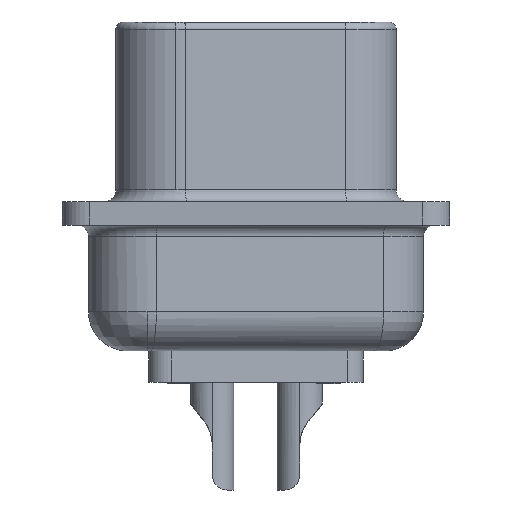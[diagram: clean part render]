
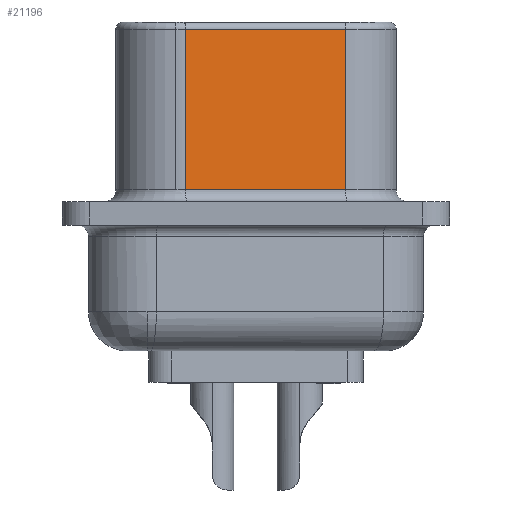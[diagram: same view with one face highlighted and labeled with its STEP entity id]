
A CAD part, left-side view. The second image highlights one B-rep face of the part: STEP entity #21196.
In plain terms, the highlighted planar face has unit normal (-0.987, -0.159, 0).
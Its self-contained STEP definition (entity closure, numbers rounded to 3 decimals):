
#3079 = VERTEX_POINT('',#3080);
#3080 = CARTESIAN_POINT('',(6.571,8.592,5.588));
#3095 = CYLINDRICAL_SURFACE('',#3096,1.956);
#3096 = AXIS2_PLACEMENT_3D('',#3097,#3098,#3099);
#3097 = CARTESIAN_POINT('',(8.502,8.903,5.842));
#3098 = DIRECTION('',(0.,0.,-1.));
#3099 = DIRECTION('',(-1.,0.,0.));
#3122 = CYLINDRICAL_SURFACE('',#3123,0.254);
#3123 = AXIS2_PLACEMENT_3D('',#3124,#3125,#3126);
#3124 = CARTESIAN_POINT('',(7.66,3.425,5.588));
#3125 = DIRECTION('',(0.159,-0.987,0.));
#3126 = DIRECTION('',(0.987,0.159,0.));
#3283 = VERTEX_POINT('',#3284);
#3284 = CARTESIAN_POINT('',(6.571,8.592,0.381));
#3311 = EDGE_CURVE('',#3079,#3283,#3312,.T.);
#3312 = SURFACE_CURVE('',#3313,(#3317,#3324),.PCURVE_S1.);
#3313 = LINE('',#3314,#3315);
#3314 = CARTESIAN_POINT('',(6.571,8.592,5.842));
#3315 = VECTOR('',#3316,1.);
#3316 = DIRECTION('',(0.,0.,-1.));
#3317 = PCURVE('',#3095,#3318);
#3318 = DEFINITIONAL_REPRESENTATION('',(#3319),#3323);
#3319 = LINE('',#3320,#3321);
#3320 = CARTESIAN_POINT('',(6.124,0.));
#3321 = VECTOR('',#3322,1.);
#3322 = DIRECTION('',(0.,1.));
#3323 = ( GEOMETRIC_REPRESENTATION_CONTEXT(2) 
PARAMETRIC_REPRESENTATION_CONTEXT() REPRESENTATION_CONTEXT('2D SPACE',''
  ) );
#3324 = PCURVE('',#3325,#3330);
#3325 = PLANE('',#3326);
#3326 = AXIS2_PLACEMENT_3D('',#3327,#3328,#3329);
#3327 = CARTESIAN_POINT('',(7.409,3.385,5.842));
#3328 = DIRECTION('',(0.987,0.159,0.));
#3329 = DIRECTION('',(-0.159,0.987,0.));
#3330 = DEFINITIONAL_REPRESENTATION('',(#3331),#3335);
#3331 = LINE('',#3332,#3333);
#3332 = CARTESIAN_POINT('',(5.274,0.));
#3333 = VECTOR('',#3334,1.);
#3334 = DIRECTION('',(0.,-1.));
#3335 = ( GEOMETRIC_REPRESENTATION_CONTEXT(2) 
PARAMETRIC_REPRESENTATION_CONTEXT() REPRESENTATION_CONTEXT('2D SPACE',''
  ) );
#19012 = CYLINDRICAL_SURFACE('',#19013,0.381);
#19013 = AXIS2_PLACEMENT_3D('',#19014,#19015,#19016);
#19014 = CARTESIAN_POINT('',(7.033,3.324,0.381));
#19015 = DIRECTION('',(0.159,-0.987,0.));
#19016 = DIRECTION('',(0.987,0.159,0.));
#19987 = EDGE_CURVE('',#19988,#19990,#19992,.T.);
#19988 = VERTEX_POINT('',#19989);
#19989 = CARTESIAN_POINT('',(7.409,3.385,5.588));
#19990 = VERTEX_POINT('',#19991);
#19991 = CARTESIAN_POINT('',(7.409,3.385,0.381));
#19992 = SURFACE_CURVE('',#19993,(#19997,#20009),.PCURVE_S1.);
#19993 = LINE('',#19994,#19995);
#19994 = CARTESIAN_POINT('',(7.409,3.385,5.842));
#19995 = VECTOR('',#19996,1.);
#19996 = DIRECTION('',(0.,0.,-1.));
#19997 = PCURVE('',#19998,#20003);
#19998 = CYLINDRICAL_SURFACE('',#19999,1.956);
#19999 = AXIS2_PLACEMENT_3D('',#20000,#20001,#20002);
#20000 = CARTESIAN_POINT('',(9.34,3.696,5.842));
#20001 = DIRECTION('',(0.,0.,-1.));
#20002 = DIRECTION('',(-1.,0.,0.));
#20003 = DEFINITIONAL_REPRESENTATION('',(#20004),#20008);
#20004 = LINE('',#20005,#20006);
#20005 = CARTESIAN_POINT('',(6.124,0.));
#20006 = VECTOR('',#20007,1.);
#20007 = DIRECTION('',(0.,1.));
#20008 = ( GEOMETRIC_REPRESENTATION_CONTEXT(2) 
PARAMETRIC_REPRESENTATION_CONTEXT() REPRESENTATION_CONTEXT('2D SPACE',''
  ) );
#20009 = PCURVE('',#3325,#20010);
#20010 = DEFINITIONAL_REPRESENTATION('',(#20011),#20015);
#20011 = LINE('',#20012,#20013);
#20012 = CARTESIAN_POINT('',(0.,0.));
#20013 = VECTOR('',#20014,1.);
#20014 = DIRECTION('',(0.,-1.));
#20015 = ( GEOMETRIC_REPRESENTATION_CONTEXT(2) 
PARAMETRIC_REPRESENTATION_CONTEXT() REPRESENTATION_CONTEXT('2D SPACE',''
  ) );
#21196 = ADVANCED_FACE('',(#21197),#3325,.F.);
#21197 = FACE_BOUND('',#21198,.T.);
#21198 = EDGE_LOOP('',(#21199,#21200,#21221,#21222));
#21199 = ORIENTED_EDGE('',*,*,#3311,.T.);
#21200 = ORIENTED_EDGE('',*,*,#21201,.T.);
#21201 = EDGE_CURVE('',#3283,#19990,#21202,.T.);
#21202 = SURFACE_CURVE('',#21203,(#21207,#21214),.PCURVE_S1.);
#21203 = LINE('',#21204,#21205);
#21204 = CARTESIAN_POINT('',(7.409,3.385,0.381));
#21205 = VECTOR('',#21206,1.);
#21206 = DIRECTION('',(0.159,-0.987,0.));
#21207 = PCURVE('',#3325,#21208);
#21208 = DEFINITIONAL_REPRESENTATION('',(#21209),#21213);
#21209 = LINE('',#21210,#21211);
#21210 = CARTESIAN_POINT('',(0.,-5.461));
#21211 = VECTOR('',#21212,1.);
#21212 = DIRECTION('',(-1.,0.));
#21213 = ( GEOMETRIC_REPRESENTATION_CONTEXT(2) 
PARAMETRIC_REPRESENTATION_CONTEXT() REPRESENTATION_CONTEXT('2D SPACE',''
  ) );
#21214 = PCURVE('',#19012,#21215);
#21215 = DEFINITIONAL_REPRESENTATION('',(#21216),#21220);
#21216 = LINE('',#21217,#21218);
#21217 = CARTESIAN_POINT('',(6.283,0.));
#21218 = VECTOR('',#21219,1.);
#21219 = DIRECTION('',(0.,1.));
#21220 = ( GEOMETRIC_REPRESENTATION_CONTEXT(2) 
PARAMETRIC_REPRESENTATION_CONTEXT() REPRESENTATION_CONTEXT('2D SPACE',''
  ) );
#21221 = ORIENTED_EDGE('',*,*,#19987,.F.);
#21222 = ORIENTED_EDGE('',*,*,#21223,.T.);
#21223 = EDGE_CURVE('',#19988,#3079,#21224,.T.);
#21224 = SURFACE_CURVE('',#21225,(#21229,#21236),.PCURVE_S1.);
#21225 = LINE('',#21226,#21227);
#21226 = CARTESIAN_POINT('',(7.409,3.385,5.588));
#21227 = VECTOR('',#21228,1.);
#21228 = DIRECTION('',(-0.159,0.987,0.));
#21229 = PCURVE('',#3325,#21230);
#21230 = DEFINITIONAL_REPRESENTATION('',(#21231),#21235);
#21231 = LINE('',#21232,#21233);
#21232 = CARTESIAN_POINT('',(0.,-0.254));
#21233 = VECTOR('',#21234,1.);
#21234 = DIRECTION('',(1.,0.));
#21235 = ( GEOMETRIC_REPRESENTATION_CONTEXT(2) 
PARAMETRIC_REPRESENTATION_CONTEXT() REPRESENTATION_CONTEXT('2D SPACE',''
  ) );
#21236 = PCURVE('',#3122,#21237);
#21237 = DEFINITIONAL_REPRESENTATION('',(#21238),#21242);
#21238 = LINE('',#21239,#21240);
#21239 = CARTESIAN_POINT('',(3.142,0.));
#21240 = VECTOR('',#21241,1.);
#21241 = DIRECTION('',(0.,-1.));
#21242 = ( GEOMETRIC_REPRESENTATION_CONTEXT(2) 
PARAMETRIC_REPRESENTATION_CONTEXT() REPRESENTATION_CONTEXT('2D SPACE',''
  ) );
